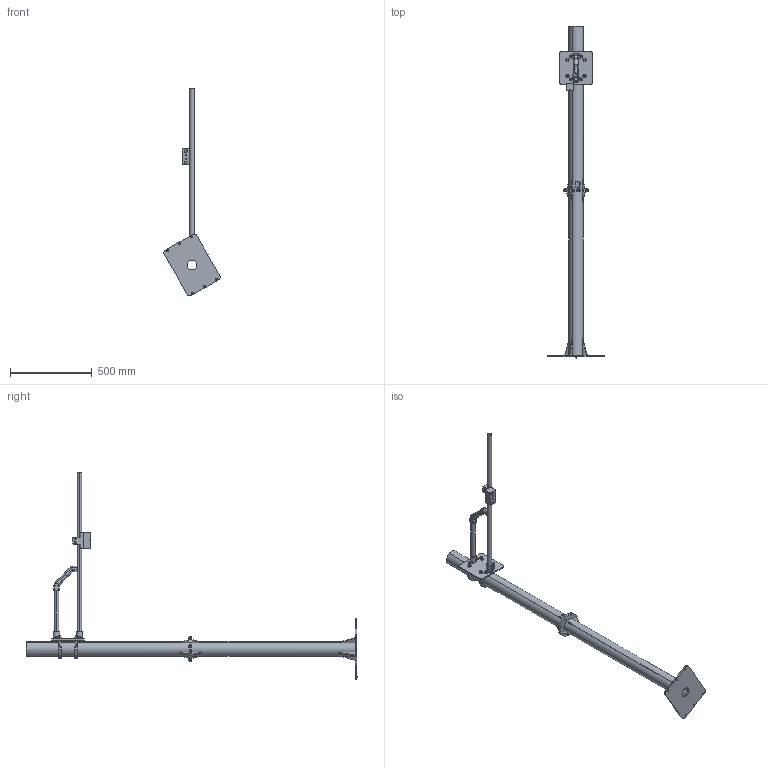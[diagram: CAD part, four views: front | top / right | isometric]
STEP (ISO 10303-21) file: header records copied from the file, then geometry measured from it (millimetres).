
FILE_DESCRIPTION (( 'STEP AP203' ), '1' );
FILE_NAME ('生态套件-分拣工作站-Eye to hand 模块.STEP', '2024-11-08T07:53:47', ( '' ), ( '' ), 'SwSTEP 2.0', 'SolidWorks 2018', '' );
FILE_SCHEMA (( 'CONFIG_CONTROL_DESIGN' ));
Length unit declared in the file: millimetre
Products named in the file (1): 生态套件-分拣工作站-Eye to hand 模块
Bounding box: 344.54 x 2032.8 x 1271.74 mm (x, y, z)
Surface area: 1686284.2 mm2 (no closed solid volume)
Topology: 0 solids, 51 shells, 412 faces, 1340 edges, 961 vertices
Faces by surface type: plane 188, cylinder 177, torus 29, cone 14, sphere 4
Entity records: 15167 total; most frequent: CARTESIAN_POINT 2958, DIRECTION 2766, ORIENTED_EDGE 2122, EDGE_CURVE 1338, AXIS2_PLACEMENT_3D 1045, VERTEX_POINT 961, LINE 676, VECTOR 676
